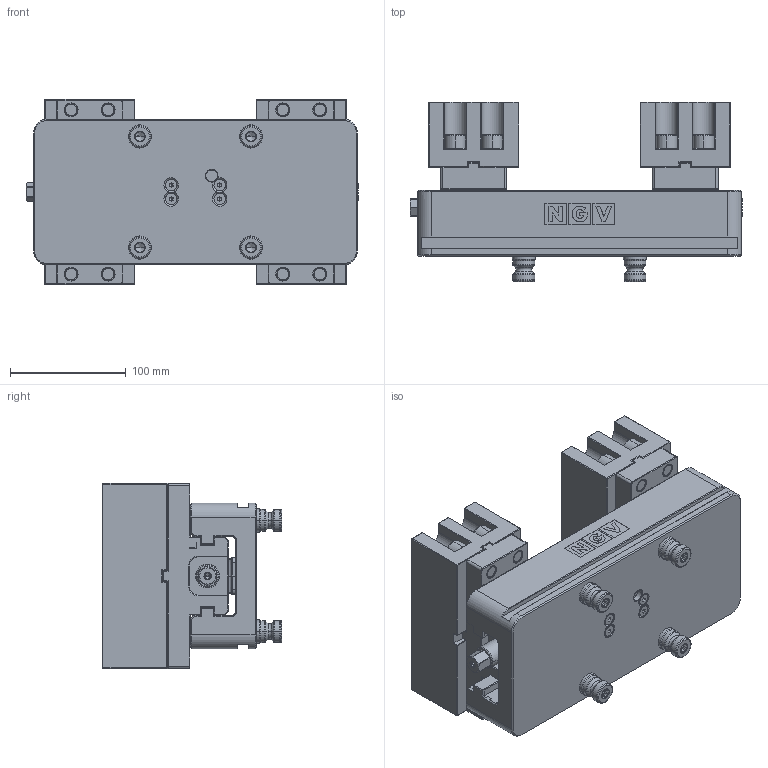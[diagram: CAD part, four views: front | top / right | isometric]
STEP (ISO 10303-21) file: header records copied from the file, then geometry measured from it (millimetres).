
FILE_DESCRIPTION((''),'2;1');
FILE_NAME('SJV126L-XL_00_0_ASM','2025-06-27T',('Bogdan'),('umc'),'PRO/ENGINEER BY PARAMETRIC TECHNOLOGY CORPORATION, 2010280','PRO/ENGINEER BY PARAMETRIC TECHNOLOGY CORPORATION, 2010280','');
FILE_SCHEMA(('CONFIG_CONTROL_DESIGN'));
Length unit declared in the file: millimetre
Products named in the file (12): CORP_2; SEMICUPLA; SURUB_2; INEL_O_15X1SI8_INST; SURUB_M5X20; PIN_CENTRARE_20; STIFT_FILETAT_M10X24; SIG2-SANIE_STANGA; SIG2-SANIE_DREAPTA; BJSM126S-XL_10_0_BAC_MOALE_OTEL; SURUB_CAP_INBUS_M12X35; SJV126L-XL_00_0_ASM
Assembly tree (30 placements, depth 2):
  SJV126L-XL_00_0_ASM
    CORP_2
    SEMICUPLA  x2
    SURUB_2
    INEL_O_15X1SI8_INST  x2
    SURUB_M5X20  x4
    PIN_CENTRARE_20  x4
    STIFT_FILETAT_M10X24  x4
    SIG2-SANIE_STANGA
    SIG2-SANIE_DREAPTA
    BJSM126S-XL_10_0_BAC_MOALE_OTEL  x2
    SURUB_CAP_INBUS_M12X35  x8
Bounding box: 287 x 155 x 160 mm (x, y, z)
Volume: 3255762.9 mm3; surface area: 454441.1 mm2
Topology: 30 solids, 66 shells, 2053 faces, 5048 edges, 3105 vertices
Faces by surface type: plane 1110, cylinder 412, cone 389, torus 92, extrusion 38, bspline 12
Entity records: 39026 total; most frequent: CARTESIAN_POINT 8025, DIRECTION 6357, ORIENTED_EDGE 6298, EDGE_CURVE 3191, VECTOR 2221, LINE 2183, AXIS2_PLACEMENT_3D 2068, VERTEX_POINT 2000
